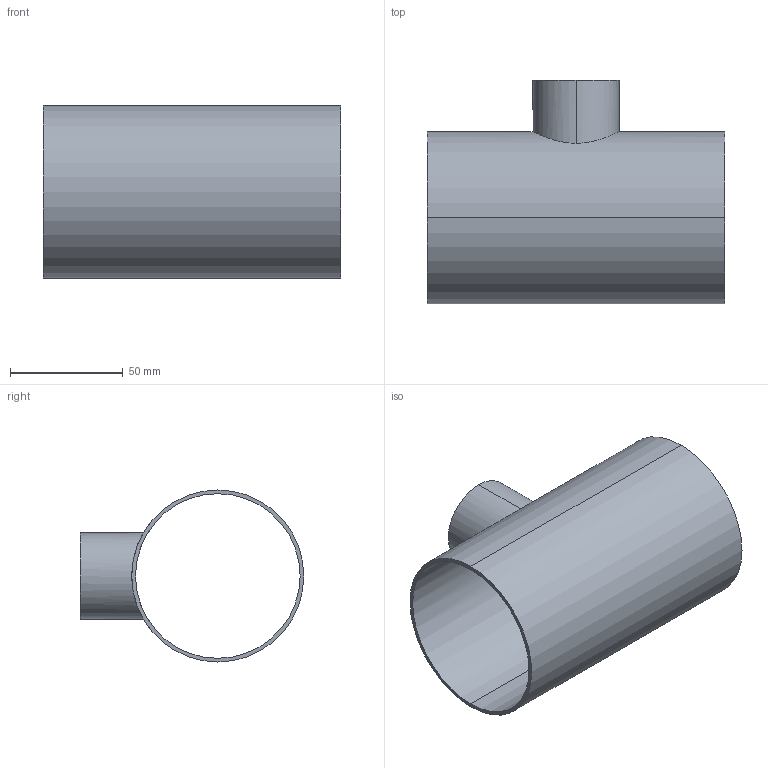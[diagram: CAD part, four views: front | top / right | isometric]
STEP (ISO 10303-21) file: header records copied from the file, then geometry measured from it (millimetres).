
FILE_DESCRIPTION (( 'STEP AP203' ), '1' );
FILE_NAME ('E7RWWW3.0X1.5.STEP', '2018-04-30T18:47:17', ( 'vneprd' ), ( 'Microsoft' ), 'SwSTEP 2.0', 'SolidWorks 2014', '' );
FILE_SCHEMA (( 'CONFIG_CONTROL_DESIGN' ));
Length unit declared in the file: inch
Products named in the file (1): E7RWWW3.0X1.5
Bounding box: 131.75 x 99.06 x 76.2 mm (x, y, z)
Volume: 54081 mm3; surface area: 66467.9 mm2
Topology: 1 solids, 1 shells, 11 faces, 24 edges, 16 vertices
Faces by surface type: cylinder 8, plane 3
Entity records: 606 total; most frequent: CARTESIAN_POINT 269, DIRECTION 56, ORIENTED_EDGE 48, EDGE_CURVE 24, AXIS2_PLACEMENT_3D 24, EDGE_LOOP 16, VERTEX_POINT 16, CIRCLE 12
